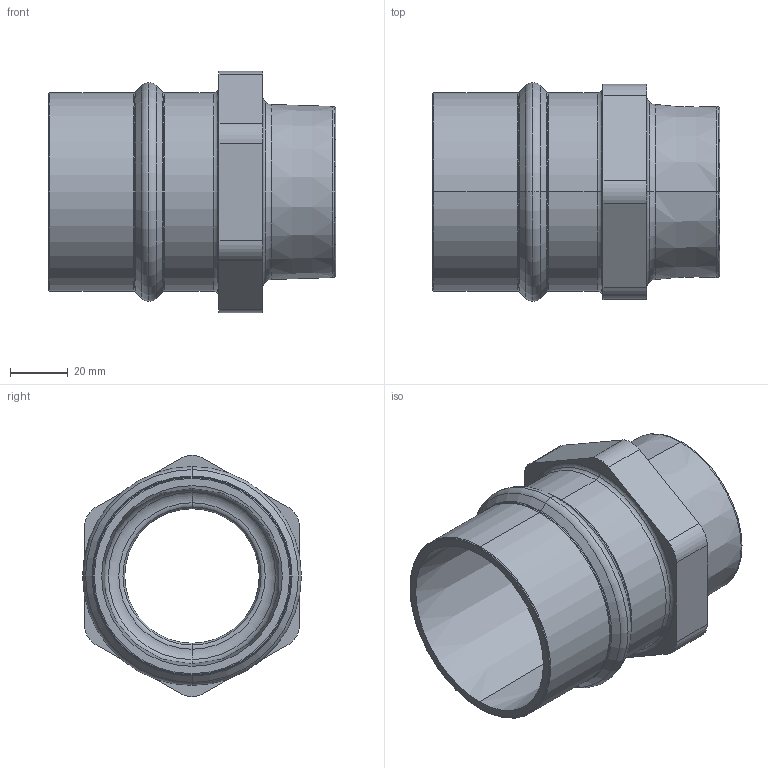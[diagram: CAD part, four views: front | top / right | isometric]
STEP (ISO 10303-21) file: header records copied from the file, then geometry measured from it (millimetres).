
FILE_DESCRIPTION((''),'2;1');
FILE_NAME('2014651700','2017-05-15T',('Administrator'),(''),'PRO/ENGINEER BY PARAMETRIC TECHNOLOGY CORPORATION, 2009360','PRO/ENGINEER BY PARAMETRIC TECHNOLOGY CORPORATION, 2009360','');
FILE_SCHEMA(('AUTOMOTIVE_DESIGN_CC2 { 1 2 10303 214 -1 1 5 2 }'));
Length unit declared in the file: millimetre
Products named in the file (1): 2014651700
Bounding box: 99.23 x 75.56 x 83.35 mm (x, y, z)
Volume: 116568.1 mm3; surface area: 44213.7 mm2
Topology: 1 solids, 1 shells, 66 faces, 146 edges, 84 vertices
Faces by surface type: torus 36, cylinder 12, plane 10, cone 8
Entity records: 2323 total; most frequent: DIRECTION 386, CARTESIAN_POINT 296, ORIENTED_EDGE 292, AXIS2_PLACEMENT_3D 174, PRESENTATION_STYLE_ASSIGNMENT 147, STYLED_ITEM 147, CURVE_STYLE 146, EDGE_CURVE 146
